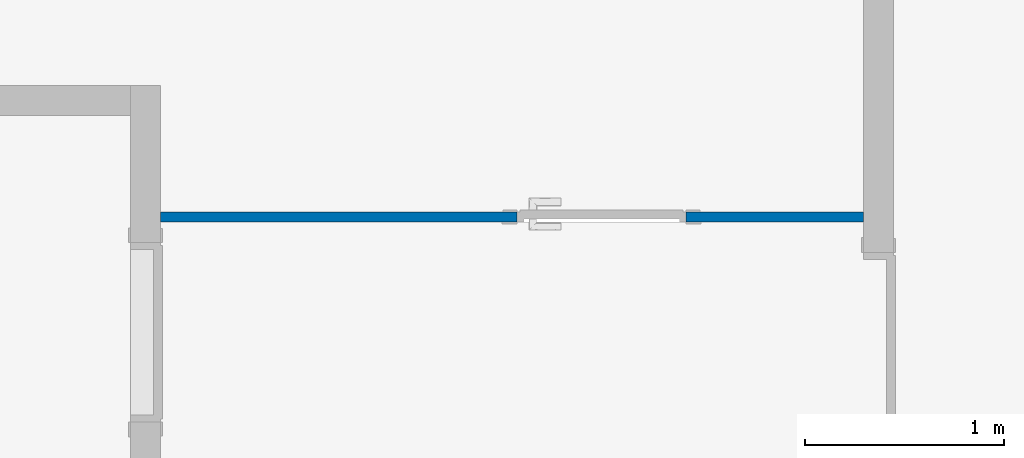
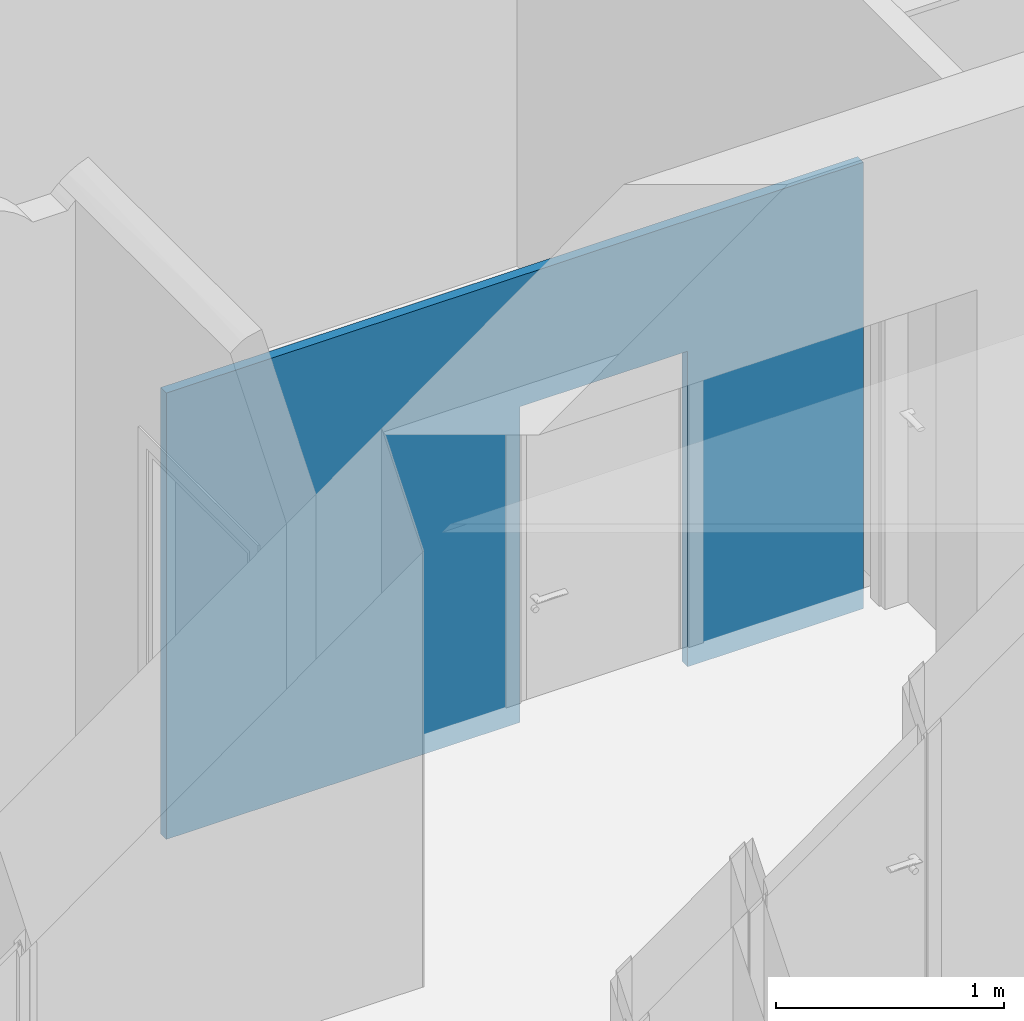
# One storey, part 128 of 153: 1 wall, 1 opening.
"""IFC4 building model written with IfcOpenShell, lengths in metres."""

from ifc_helpers import new_model, entity, si_unit, converted_unit, derived_unit, direction, frame, origin, place, context, subcontext, project, spatial, indexed_curve, outline, extrude, polygons, material, type_object, element, save


model = new_model("IFC4")

# Units and contexts
model_context = context("Model", 3, precision=1e-05, world=origin(), true_north=direction((6.123031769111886e-17, 1.0)))
body_context = subcontext(model_context, "Body", "Model", "MODEL_VIEW")
ifc_project = project(units=[si_unit("LENGTHUNIT", "METRE"), si_unit("AREAUNIT", "SQUARE_METRE"), si_unit("VOLUMEUNIT", "CUBIC_METRE"), converted_unit("PLANEANGLEUNIT", "DEGREE", entity("IfcRatioMeasure", 0.017453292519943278), si_unit("PLANEANGLEUNIT", "RADIAN"), dimensions=[0, 0, 0, 0, 0, 0, 0]), si_unit("MASSUNIT", "GRAM", prefix="KILO"), derived_unit("MASSDENSITYUNIT", [(si_unit("MASSUNIT", "GRAM", prefix="KILO"), 1), (si_unit("LENGTHUNIT", "METRE"), -3)]), derived_unit("MOMENTOFINERTIAUNIT", [(si_unit("LENGTHUNIT", "METRE"), 4)]), si_unit("TIMEUNIT", "SECOND"), si_unit("FREQUENCYUNIT", "HERTZ"), si_unit("THERMODYNAMICTEMPERATUREUNIT", "DEGREE_CELSIUS"), derived_unit("THERMALTRANSMITTANCEUNIT", [(si_unit("MASSUNIT", "GRAM", prefix="KILO"), 1), (si_unit("THERMODYNAMICTEMPERATUREUNIT", "KELVIN"), -1), (si_unit("TIMEUNIT", "SECOND"), -3)]), derived_unit("VOLUMETRICFLOWRATEUNIT", [(si_unit("LENGTHUNIT", "METRE"), 3), (si_unit("TIMEUNIT", "SECOND"), -1)]), derived_unit("MASSFLOWRATEUNIT", [(si_unit("MASSUNIT", "GRAM", prefix="KILO"), 1), (si_unit("TIMEUNIT", "SECOND"), -1)]), derived_unit("ROTATIONALFREQUENCYUNIT", [(si_unit("TIMEUNIT", "SECOND"), -1)]), si_unit("ELECTRICCURRENTUNIT", "AMPERE"), si_unit("ELECTRICVOLTAGEUNIT", "VOLT"), si_unit("POWERUNIT", "WATT"), si_unit("FORCEUNIT", "NEWTON", prefix="KILO"), si_unit("ILLUMINANCEUNIT", "LUX"), si_unit("LUMINOUSFLUXUNIT", "LUMEN"), si_unit("LUMINOUSINTENSITYUNIT", "CANDELA"), derived_unit("USERDEFINED", [(si_unit("MASSUNIT", "GRAM", prefix="KILO"), -1), (si_unit("LENGTHUNIT", "METRE"), -2), (si_unit("TIMEUNIT", "SECOND"), 3), (si_unit("LUMINOUSFLUXUNIT", "LUMEN"), 1)]), derived_unit("SOUNDPOWERUNIT", [(si_unit("MASSUNIT", "GRAM", prefix="KILO"), 1), (si_unit("LENGTHUNIT", "METRE"), 2), (si_unit("TIMEUNIT", "SECOND"), -3)]), derived_unit("SOUNDPRESSUREUNIT", [(si_unit("MASSUNIT", "GRAM", prefix="KILO"), 1), (si_unit("LENGTHUNIT", "METRE"), -1), (si_unit("TIMEUNIT", "SECOND"), -2)]), derived_unit("LINEARVELOCITYUNIT", [(si_unit("LENGTHUNIT", "METRE"), 1), (si_unit("TIMEUNIT", "SECOND"), -1)]), si_unit("PRESSUREUNIT", "PASCAL"), derived_unit("USERDEFINED", [(si_unit("LENGTHUNIT", "METRE"), -2), (si_unit("MASSUNIT", "GRAM", prefix="KILO"), 1), (si_unit("TIMEUNIT", "SECOND"), -2)]), derived_unit("LINEARFORCEUNIT", [(si_unit("MASSUNIT", "GRAM", prefix="KILO"), 1), (si_unit("LENGTHUNIT", "METRE"), 1), (si_unit("TIMEUNIT", "SECOND"), -2), (si_unit("LENGTHUNIT", "METRE"), -1)]), derived_unit("PLANARFORCEUNIT", [(si_unit("MASSUNIT", "GRAM", prefix="KILO"), 1), (si_unit("LENGTHUNIT", "METRE"), 1), (si_unit("TIMEUNIT", "SECOND"), -2), (si_unit("LENGTHUNIT", "METRE"), -2)])], contexts=[model_context])

# Site, building, storey
site_placement = place(None, origin())
site = spatial("IfcSite", under=ifc_project, at=site_placement, Name="Superficie", CompositionType="ELEMENT")
building_placement = place(site_placement, origin())
building = spatial("IfcBuilding", under=site, at=building_placement, CompositionType="ELEMENT")
storey_placement = place(building_placement, frame((0.0, 0.0, 3.5999999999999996)))
storey = spatial("IfcBuildingStorey", under=building, at=storey_placement, Name="Nivel 1", CompositionType="ELEMENT", Elevation=3.5999999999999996)

# Wall, opening
ifc_material = material(Name="Muro por defecto", Category="Varios")
wall_type = type_object("IfcWallType", Name="Muro básico:Por defecto - 5 cm 2", PredefinedType="STANDARD")
wall_placement = place(storey_placement, frame((1.1110019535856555, 12.070829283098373, 0.41019152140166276), z_axis=(0.0, 0.0, 1.0), x_axis=(-1.0, 0.0, 0.0)))
wall = element("IfcWall", 1, at=wall_placement, inside=storey, type_object=wall_type, material=ifc_material, Name="Muro básico:Por defecto - 5 cm 2", ObjectType="Muro básico:Por defecto - 5 cm 2", PredefinedType="NOTDEFINED", context=body_context, shape_type="Tessellation", body=[
    polygons([(3.5299999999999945, -0.02499999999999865, 2.389808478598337), (0.0, -0.02499999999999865, 2.389808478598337), (1.353583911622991e-16, -0.02499999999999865, 5.414335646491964e-16), (0.8900000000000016, -0.02499999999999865, 5.414335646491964e-16), (0.8900000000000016, -0.02499999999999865, 1.6898084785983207), (1.740000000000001, -0.02499999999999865, 1.6898084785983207), (1.7400000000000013, -0.02499999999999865, 5.414335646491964e-16), (3.529999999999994, -0.02499999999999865, 5.414335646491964e-16), (1.353583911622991e-16, 0.025000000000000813, 2.389808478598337), (3.529999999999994, 0.025000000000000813, 2.389808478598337), (3.5299999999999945, 0.025000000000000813, 5.414335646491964e-16), (1.7400000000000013, 0.025000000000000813, 5.414335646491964e-16), (1.740000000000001, 0.025000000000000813, 1.6898084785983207), (0.8900000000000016, 0.025000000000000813, 1.6898084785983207), (0.8900000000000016, 0.025000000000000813, 5.414335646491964e-16), (0.0, 0.025000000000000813, 5.414335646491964e-16)], [[[1, 2, 3, 4, 5, 6, 7, 8]], [[9, 10, 11, 12, 13, 14, 15, 16]], [[3, 16, 15, 4]], [[2, 1, 10, 9]], [[3, 2, 9, 16]], [[1, 8, 11, 10]], [[14, 5, 4, 15]], [[5, 14, 13, 6]], [[6, 13, 12, 7]], [[11, 8, 7, 12]]], closed=True),
])
opening_placement = place(wall_placement, frame((1.7400000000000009, 0.02499999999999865, -0.4101915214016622)))
element("IfcOpeningElement", 2, at=opening_placement, cuts=wall, Name="Puerta de 1 hoja:85 x 210 cm 2:1", PredefinedType="OPENING", context=body_context, shape_type="SweptSolid", body=[
    extrude(outline(indexed_curve([(0.0, 0.8499999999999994), (0.0, 0.0), (2.099999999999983, 0.0), (2.099999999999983, 0.8499999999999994), (0.0, 0.8499999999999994)], self_intersect=False)), frame((0.0, 0.0, 0.0), z_axis=(0.0, -1.0, 0.0), x_axis=(0.0, 0.0, 1.0)), (0.0, 0.0, 1.0), 0.05),
])

save(model, "model.ifc")
